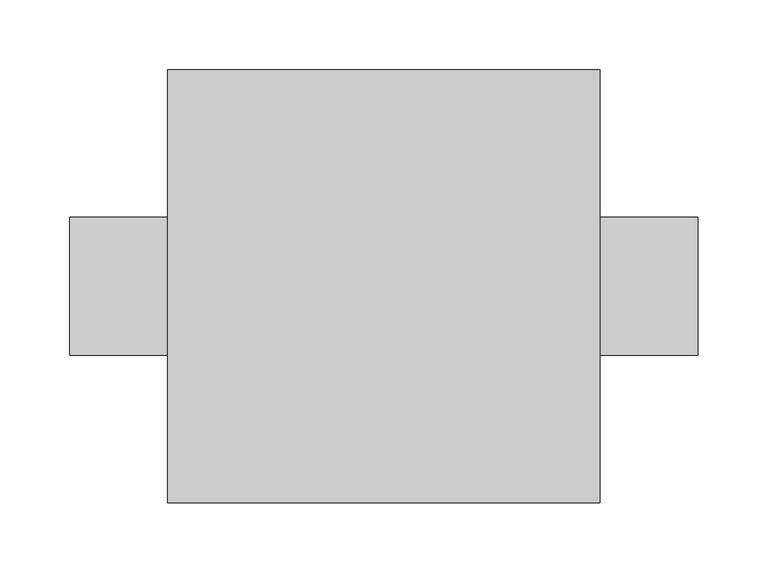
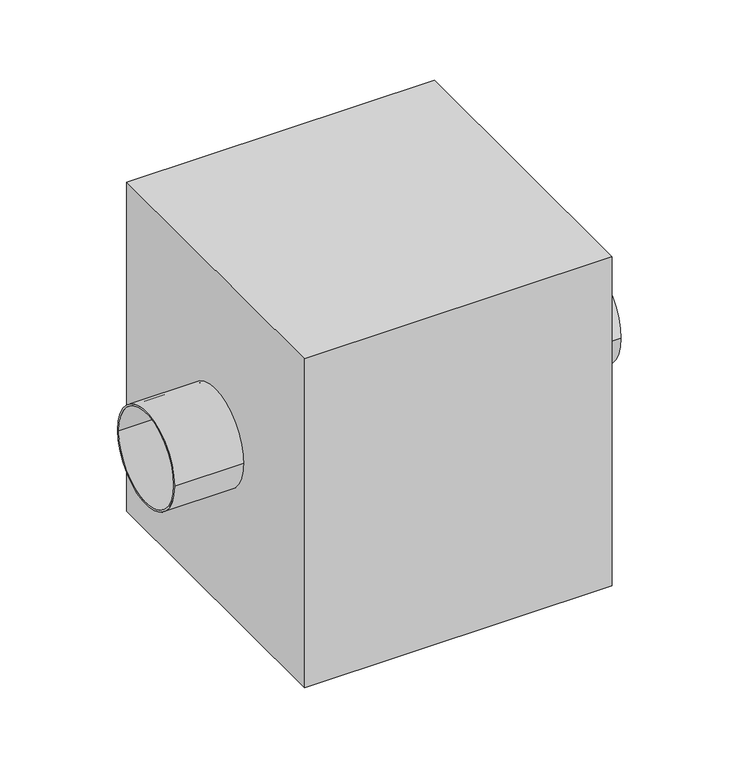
"""IFC4 building model written with IfcOpenShell, lengths in millimetres: proxy geometry, СВ_Вентилятор_КанальныйКруглый_DN100-315_SVK-SVKH : SVKH-100."""

import ifcopenshell
import ifcopenshell.guid

model = None  # the IFC model being written
_history = None  # IfcOwnerHistory: only IFC2X3 demands one
_inside = {}  # id of a spatial element -> (the spatial element, [elements in it])
_under = {}  # id of a project, library or spatial element -> (it, [spatial elements below it])
_declared = {}  # id of a project -> (the project, [libraries it declares])
_typed = {}  # id of a type object -> (the type object, [elements of that type])
_made_of = {}  # id of a material, layer set ... -> (it, [elements and type objects made of it])


def new_model(schema):
    """Start an empty IFC model of exactly this schema.

    Asked for "IFC4X3", IfcOpenShell would pick the latest addendum, in which some entities
    have other attributes; the version numbers below select the first issue.
    IFC2X3 requires an IfcOwnerHistory on every rooted entity: one is made here for all.
    """
    global model, _history
    if schema == "IFC4X3":
        model = ifcopenshell.file(schema_version=(4, 3, 0, 0))
    else:
        model = ifcopenshell.file(schema=schema)
    _inside.clear()
    _under.clear()
    _declared.clear()
    _typed.clear()
    _made_of.clear()
    _history = None
    if model.schema == "IFC2X3":
        org = make("IfcOrganization", Name="unknown")
        user = make(
            "IfcPersonAndOrganization",
            ThePerson=make("IfcPerson", FamilyName="unknown"),
            TheOrganization=org,
        )
        app = make(
            "IfcApplication",
            ApplicationDeveloper=org,
            Version="unknown",
            ApplicationFullName="unknown",
            ApplicationIdentifier="unknown",
        )
        _history = make(
            "IfcOwnerHistory",
            OwningUser=user,
            OwningApplication=app,
            ChangeAction="ADDED",
            CreationDate=0,
        )
    return model


def make(cls, **values):
    """One entity of the class cls with the attributes given. An attribute that is None is left unset."""
    return model.create_entity(
        cls, **{name: value for name, value in values.items() if value is not None}
    )


def rooted(cls, **values):
    """An entity with a GlobalId (a new one), such as an element, a storey or a relation."""
    return make(cls, GlobalId=ifcopenshell.guid.new(), OwnerHistory=_history, **values)


def si_unit(unit_type, name, prefix=None):
    """IfcSIUnit, for example si_unit("LENGTHUNIT", "METRE", prefix="MILLI")."""
    return make("IfcSIUnit", UnitType=unit_type, Prefix=prefix, Name=name)


def assignment(units):
    """IfcUnitAssignment: the units of a project."""
    return None if units is None else make("IfcUnitAssignment", Units=units)


def point(xyz):
    """IfcCartesianPoint."""
    return None if xyz is None else make("IfcCartesianPoint", Coordinates=xyz)


def direction(xyz):
    """IfcDirection."""
    return None if xyz is None else make("IfcDirection", DirectionRatios=xyz)


def frame(location, z_axis=None, x_axis=None):
    """IfcAxis2Placement3D, a coordinate frame: its origin and axes. An axis left out is left unset."""
    return make(
        "IfcAxis2Placement3D",
        Location=point(location),
        Axis=direction(z_axis),
        RefDirection=direction(x_axis),
    )


def frame_2d(location, x_axis=None):
    """IfcAxis2Placement2D, a coordinate frame in the plane: its origin and x axis."""
    return make(
        "IfcAxis2Placement2D", Location=point(location), RefDirection=direction(x_axis)
    )


def origin():
    """The frame at (0, 0, 0) with its axes left unset."""
    return frame((0.0, 0.0, 0.0))


def origin_2d():
    """The frame at (0, 0) in the plane with its x axis left unset."""
    return frame_2d((0.0, 0.0))


def place(relative_to, where):
    """IfcLocalPlacement: puts the frame where relative to a parent placement (None: the world)."""
    return make(
        "IfcLocalPlacement", PlacementRelTo=relative_to, RelativePlacement=where
    )


def context(
    kind, dimensions, precision=None, world=None, true_north=None, identifier=None
):
    """IfcGeometricRepresentationContext, for example the 3D "Model" context."""
    return make(
        "IfcGeometricRepresentationContext",
        ContextIdentifier=identifier,
        ContextType=kind,
        CoordinateSpaceDimension=dimensions,
        Precision=precision,
        WorldCoordinateSystem=world,
        TrueNorth=true_north,
    )


def project(units=None, contexts=None):
    """IfcProject with its units and contexts."""
    return rooted(
        "IfcProject",
        Name="project",
        RepresentationContexts=contexts,
        UnitsInContext=assignment(units),
    )


def spatial(cls, under=None, at=None, **own):
    """A site, building, storey or space (cls), placed at a placement, below another one or the project."""
    s = rooted(cls, ObjectPlacement=at, **own)
    if under is not None:
        _under.setdefault(under.id(), (under, []))[1].append(s)
    return s


def polyline(points):
    """IfcPolyline through the points."""
    return make("IfcPolyline", Points=[point(p) for p in points])


def circle_curve(where, radius):
    """IfcCircle in the frame where."""
    return make("IfcCircle", Position=where, Radius=radius)


def trimmed(basis, trim1, trim2, sense, master):
    """IfcTrimmedCurve: the piece of a basis curve between two trims."""
    return make(
        "IfcTrimmedCurve",
        BasisCurve=basis,
        Trim1=trim1,
        Trim2=trim2,
        SenseAgreement=sense,
        MasterRepresentation=master,
    )


def segment(curve, same_sense, transition):
    """IfcCompositeCurveSegment."""
    return make(
        "IfcCompositeCurveSegment",
        Transition=transition,
        SameSense=same_sense,
        ParentCurve=curve,
    )


def composite_curve(segments, self_intersect=None):
    """IfcCompositeCurve: segments joined end to end."""
    return make("IfcCompositeCurve", Segments=segments, SelfIntersect=self_intersect)


def outline(outer, holes=None, kind="AREA"):
    """IfcArbitraryClosedProfileDef: a profile drawn as a closed curve; with holes, ...WithVoids."""
    if holes is None:
        return make("IfcArbitraryClosedProfileDef", ProfileType=kind, OuterCurve=outer)
    return make(
        "IfcArbitraryProfileDefWithVoids",
        ProfileType=kind,
        OuterCurve=outer,
        InnerCurves=holes,
    )


def extrude(swept, where, along, depth):
    """IfcExtrudedAreaSolid: the profile swept, set in the frame where, extruded along a direction by depth."""
    return make(
        "IfcExtrudedAreaSolid",
        SweptArea=swept,
        Position=where,
        ExtrudedDirection=direction(along),
        Depth=depth,
    )


def shape(context_of_items, identifier, shape_type, items):
    """IfcShapeRepresentation: the items that make up one representation, for example the "Body"."""
    return make(
        "IfcShapeRepresentation",
        ContextOfItems=context_of_items,
        RepresentationIdentifier=identifier,
        RepresentationType=shape_type,
        Items=items,
    )


def source(mapping_origin, context_of_items, identifier, shape_type, items):
    """IfcRepresentationMap: a shape defined once, which mapped items show again and again."""
    return make(
        "IfcRepresentationMap",
        MappingOrigin=mapping_origin,
        MappedRepresentation=shape(context_of_items, identifier, shape_type, items),
    )


def transform(
    local_origin,
    x_axis=None,
    y_axis=None,
    z_axis=None,
    scale=None,
    scale2=None,
    scale3=None,
    uniform=True,
):
    """IfcCartesianTransformationOperator3D, or its non-uniform kind. x_axis, y_axis, z_axis: its Axis1, 2, 3."""
    if uniform:
        return make(
            "IfcCartesianTransformationOperator3D",
            Axis1=direction(x_axis),
            Axis2=direction(y_axis),
            LocalOrigin=point(local_origin),
            Scale=scale,
            Axis3=direction(z_axis),
        )
    return make(
        "IfcCartesianTransformationOperator3DnonUniform",
        Axis1=direction(x_axis),
        Axis2=direction(y_axis),
        LocalOrigin=point(local_origin),
        Scale=scale,
        Axis3=direction(z_axis),
        Scale2=scale2,
        Scale3=scale3,
    )


def mapped(mapping_source, mapping_target):
    """IfcMappedItem: shows the shape of a source again, moved by a transform."""
    return make(
        "IfcMappedItem", MappingSource=mapping_source, MappingTarget=mapping_target
    )


def made_of(thing, what):
    """Note that an element or type object is made of a material, layer set ...; save() writes the relation."""
    if what is not None:
        _made_of.setdefault(what.id(), (what, []))[1].append(thing)
    return thing


def element(
    cls,
    number,
    at=None,
    inside=None,
    cuts=None,
    type_object=None,
    material=None,
    context=None,
    identifier="Body",
    shape_type=None,
    held_by="IfcProductDefinitionShape",
    body=None,
    shapes=None,
    **own,
):
    """One element of the class cls, such as IfcWall. Its Tag is "e" and its number.

    at: its placement. inside: the storey or other place that contains it. cuts: it is an
    opening in that element (IfcRelVoidsElement). A single representation is given by context,
    identifier, shape_type and body (its items); several are given by shapes. held_by: the class
    of the entity that holds the representations. save() writes the other relations.
    """
    e = rooted(cls, Tag="e%d" % number, ObjectPlacement=at, **own)
    if body is not None:
        shapes = [shape(context, identifier, shape_type, body)]
    if shapes is not None:
        e.Representation = make(held_by, Representations=shapes)
    if inside is not None:
        _inside.setdefault(inside.id(), (inside, []))[1].append(e)
    if cuts is not None:
        rooted(
            "IfcRelVoidsElement", RelatingBuildingElement=cuts, RelatedOpeningElement=e
        )
    if type_object is not None:
        _typed.setdefault(type_object.id(), (type_object, []))[1].append(e)
    return made_of(e, material)


def aggregate(whole, parts):
    """IfcRelAggregates: a whole, such as a stair, and the parts it consists of."""
    return rooted("IfcRelAggregates", RelatingObject=whole, RelatedObjects=parts)


def save(model, path):
    """Write the relations noted so far, then the file.

    IfcRelAggregates (storeys below a building ...), IfcRelContainedInSpatialStructure (elements
    in a storey), IfcRelDefinesByType, IfcRelAssociatesMaterial and IfcRelDeclares: one each for
    every whole, place, type object, material and project.
    """
    for whole, parts in _under.values():
        aggregate(whole, parts)
    for where, things in _inside.values():
        rooted(
            "IfcRelContainedInSpatialStructure",
            RelatedElements=things,
            RelatingStructure=where,
        )
    for kind, things in _typed.values():
        rooted("IfcRelDefinesByType", RelatedObjects=things, RelatingType=kind)
    for what, things in _made_of.values():
        rooted("IfcRelAssociatesMaterial", RelatedObjects=things, RelatingMaterial=what)
    for by, libraries in _declared.values():
        rooted("IfcRelDeclares", RelatingContext=by, RelatedDefinitions=libraries)
    model.write(path)


def mechanical_equipment_2dddc4ea(model_context):
    return source(origin(), model_context, "Body", "SweptSolid", [
        extrude(outline(polyline([(155.0, -155.0), (-155.0, -155.0), (-155.0, 155.0), (155.0, 155.0), (155.0, -155.0)])), frame((0.0, 0.0, -175.0), z_axis=(0.0, 0.0, 1.0), x_axis=(1.0, 0.0, 0.0)), (0.0, 0.0, 1.0), 350.0),
        extrude(outline(composite_curve([segment(trimmed(circle_curve(origin_2d(), 49.5), [point((-49.5, 0.0))], [point((49.5, 0.0))], False, "CARTESIAN"), True, "CONTINUOUS"), segment(trimmed(circle_curve(origin_2d(), 49.5), [point((49.5, 0.0))], [point((-49.5, 0.0))], False, "CARTESIAN"), True, "CONTINUOUS")], self_intersect=False), holes=[composite_curve([segment(trimmed(circle_curve(origin_2d(), 47.5), [point((-47.5, 0.0))], [point((47.5, 0.0))], True, "CARTESIAN"), True, "CONTINUOUS"), segment(trimmed(circle_curve(origin_2d(), 47.5), [point((47.5, 0.0))], [point((-47.5, 0.0))], True, "CARTESIAN"), True, "CONTINUOUS")], self_intersect=False)]), frame((-225.0, 0.0, 0.0), z_axis=(1.0, 0.0, 0.0), x_axis=(0.0, 1.0, 0.0)), (0.0, 0.0, 1.0), 70.0),
        extrude(outline(composite_curve([segment(trimmed(circle_curve(origin_2d(), 49.5), [point((-49.5, 0.0))], [point((49.5, 0.0))], False, "CARTESIAN"), True, "CONTINUOUS"), segment(trimmed(circle_curve(origin_2d(), 49.5), [point((49.5, 0.0))], [point((-49.5, 0.0))], False, "CARTESIAN"), True, "CONTINUOUS")], self_intersect=False), holes=[composite_curve([segment(trimmed(circle_curve(origin_2d(), 47.5), [point((-47.5, 0.0))], [point((47.5, 0.0))], True, "CARTESIAN"), True, "CONTINUOUS"), segment(trimmed(circle_curve(origin_2d(), 47.5), [point((47.5, 0.0))], [point((-47.5, 0.0))], True, "CARTESIAN"), True, "CONTINUOUS")], self_intersect=False)]), frame((155.0, 0.0, 0.0), z_axis=(1.0, 0.0, 0.0), x_axis=(0.0, 1.0, 0.0)), (0.0, 0.0, 1.0), 70.0),
    ])


if __name__ == "__main__":
    model = new_model("IFC4")
    model_context = context("Model", 3, world=origin())
    ifc_project = project(units=[si_unit("LENGTHUNIT", "METRE", prefix="MILLI")], contexts=[model_context])
    site = spatial("IfcSite", under=ifc_project)
    building = spatial("IfcBuilding", under=site)
    placement = place(None, origin())
    mechanical_equipment_shape = mechanical_equipment_2dddc4ea(model_context)
    element("IfcBuildingElementProxy", 1, Name="СВ_Вентилятор_КанальныйКруглый_DN100-315_SVK-SVKH : SVKH-100", ObjectType="СВ_Вентилятор_КанальныйКруглый_DN100-315_SVK-SVKH : SVKH-100", at=placement, inside=building, context=model_context, shape_type="MappedRepresentation", body=[
        mapped(mechanical_equipment_shape, transform((0.0, 0.0, 0.0), x_axis=(1.0, 0.0, 0.0), y_axis=(0.0, 1.0, 0.0), z_axis=(0.0, 0.0, 1.0))),
    ])
    save(model, "model.ifc")
